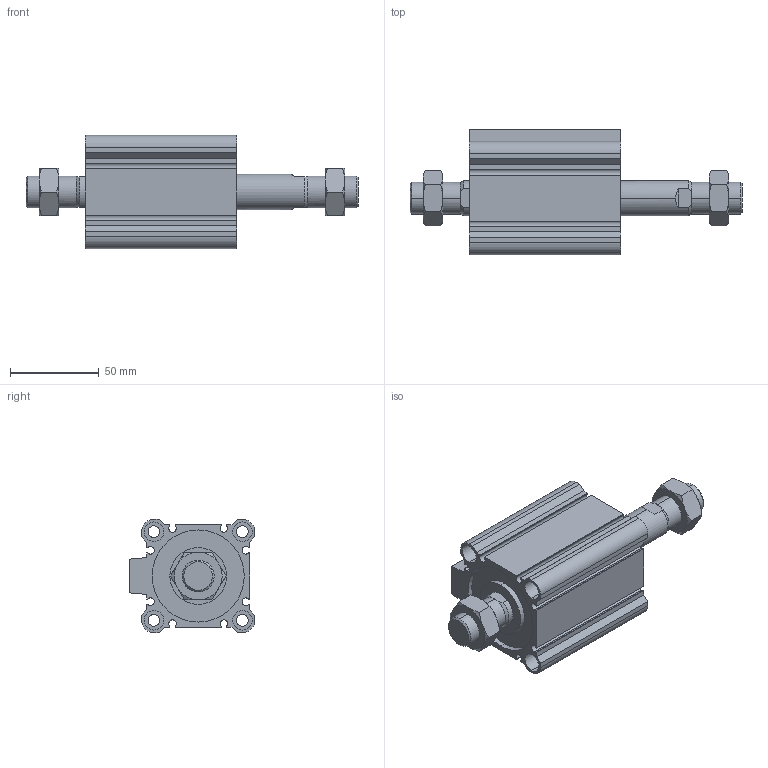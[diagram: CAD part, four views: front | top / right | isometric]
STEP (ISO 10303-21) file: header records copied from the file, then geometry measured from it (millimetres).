
FILE_DESCRIPTION (( 'STEP AP203' ), '1' );
FILE_NAME ('CCMB50-35M-P.STEP', '2020-08-10T11:45:19', ( '' ), ( '' ), 'SwSTEP 2.0', 'SolidWorks 2019', '' );
FILE_SCHEMA (( 'CONFIG_CONTROL_DESIGN' ));
Length unit declared in the file: millimetre
Products named in the file (1): CCMB50-35M-P
Bounding box: 187.5 x 71 x 64 mm (x, y, z)
Volume: 265264.4 mm3; surface area: 83075.1 mm2
Topology: 4 solids, 4 shells, 220 faces, 534 edges, 340 vertices
Faces by surface type: plane 98, cylinder 78, cone 44
Entity records: 7173 total; most frequent: CARTESIAN_POINT 1867, DIRECTION 1116, ORIENTED_EDGE 1068, EDGE_CURVE 534, AXIS2_PLACEMENT_3D 425, VERTEX_POINT 340, VECTOR 266, LINE 266
